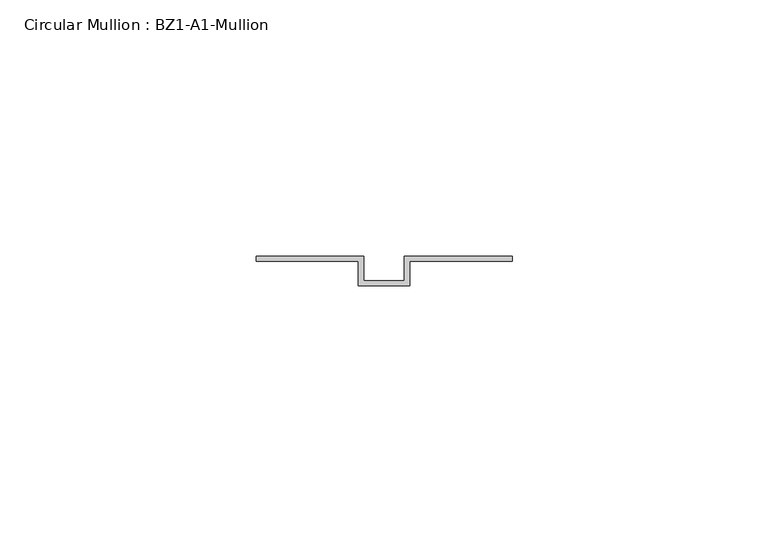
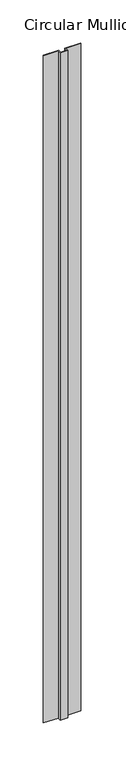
"""IFC4 building model written with IfcOpenShell, lengths in millimetres: member geometry, Circular Mullion : BZ1-A1-Mullion."""

from ifc_helpers import new_model, si_unit, frame, origin, place, context, project, spatial, polyline, outline, extrude, source, transform, mapped, element, save


def circular_mullion_bz1_a1_mullion_fa4fbc0e(model_context):
    return source(origin(), model_context, "Body", "SweptSolid", [
        extrude(outline(polyline([(-25.0, 11.0), (-4.0, 11.0), (-4.0, 6.2), (4.0, 6.2), (4.0, 11.0), (25.0, 11.0), (25.0, 10.0), (5.0, 10.0), (5.0, 5.2), (-5.0, 5.2), (-5.0, 10.0), (-25.0, 10.0), (-25.0, 11.0)])), frame((0.0, 0.0, -946.8734041), z_axis=(0.0, 0.0, 1.0), x_axis=(1.0, 0.0, 0.0)), (0.0, 0.0, 1.0), 946.8734041),
    ])


if __name__ == "__main__":
    model = new_model("IFC4")
    model_context = context("Model", 3, world=origin())
    ifc_project = project(units=[si_unit("LENGTHUNIT", "METRE", prefix="MILLI")], contexts=[model_context])
    site = spatial("IfcSite", under=ifc_project)
    building = spatial("IfcBuilding", under=site)
    placement = place(None, origin())
    circular_mullion_bz1_a1_mullion_shape = circular_mullion_bz1_a1_mullion_fa4fbc0e(model_context)
    element("IfcMember", 1, ObjectType="Circular Mullion : BZ1-A1-Mullion", at=placement, inside=building, context=model_context, shape_type="MappedRepresentation", body=[
        mapped(circular_mullion_bz1_a1_mullion_shape, transform((0.0, 0.0, 0.0), x_axis=(1.0, 0.0, 0.0), y_axis=(0.0, 1.0, 0.0), z_axis=(0.0, 0.0, 1.0))),
    ])
    save(model, "model.ifc")
